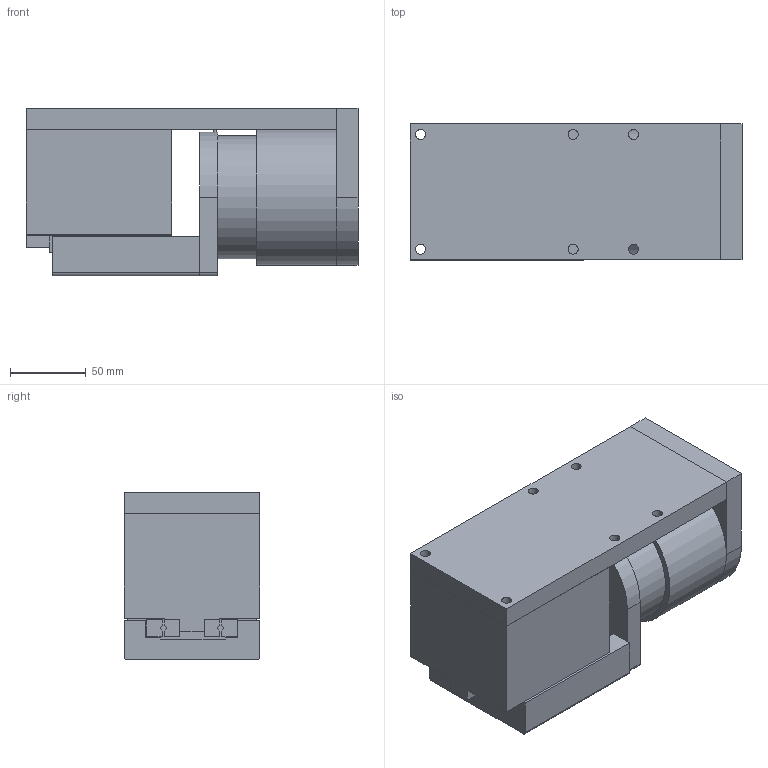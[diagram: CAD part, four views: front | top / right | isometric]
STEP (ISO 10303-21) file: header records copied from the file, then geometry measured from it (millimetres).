
FILE_DESCRIPTION (( 'STEP AP203' ), '1' );
FILE_NAME ('FHV90-30.STEP', '2021-11-12T06:28:31', ( '' ), ( '' ), 'SwSTEP 2.0', 'SolidWorks 2016', '' );
FILE_SCHEMA (( 'CONFIG_CONTROL_DESIGN' ));
Length unit declared in the file: millimetre
Products named in the file (12): (None)_3D_model_ATOM_DX_40_m_top_exit; PM-L25嫖萇; F-FV90-30-003-嘐隅釱; F-FV90-30-002-菁啣; FV-90-30耀倰芞; 雷尼绍钢带光栅尺; F-FV90-30-006-音圈连接板; F-FV90-30-004-賑釱; F-FV90-10-FL253-01V1.1-耜醱啣; F-FV60-25-007-覜茼え; FHV90-30; 【WON】标准件 交叉导轨 WRG 2060 AC
Assembly tree (15 placements, depth 2):
  FHV90-30
    F-FV90-30-002-菁啣
    F-FV90-30-003-嘐隅釱
    F-FV90-30-004-賑釱
    F-FV90-30-006-音圈连接板
    F-FV90-10-FL253-01V1.1-耜醱啣
    (None)_3D_model_ATOM_DX_40_m_top_exit
    PM-L25嫖萇  x2
    【WON】标准件 交叉导轨 WRG 2060 AC  x4
    雷尼绍钢带光栅尺
    F-FV60-25-007-覜茼え
    FV-90-30耀倰芞
Bounding box: 219.8 x 90 x 111 mm (x, y, z)
Volume: 1717478.8 mm3; surface area: 231328.9 mm2
Topology: 17 solids, 17 shells, 1417 faces, 3753 edges, 2440 vertices
Faces by surface type: plane 879, cylinder 356, bspline 112, cone 70
Entity records: 46633 total; most frequent: CARTESIAN_POINT 12605, ORIENTED_EDGE 6986, DIRECTION 6188, EDGE_CURVE 3493, LINE 2614, VECTOR 2614, VERTEX_POINT 2312, AXIS2_PLACEMENT_3D 1787
